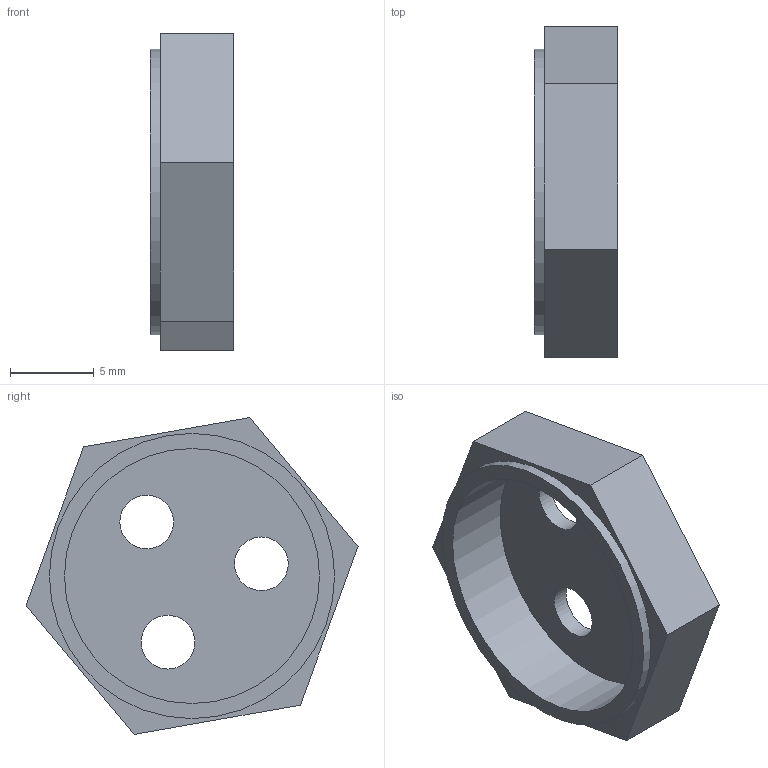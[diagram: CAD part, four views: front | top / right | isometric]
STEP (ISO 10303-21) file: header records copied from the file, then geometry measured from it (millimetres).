
FILE_DESCRIPTION(/* description */ (''),/* implementation_level */ '2;1');
FILE_NAME(/* name */ '4-20-2 Nut spacer.step',/* time_stamp */ '2025-05-10T22:18:07+02:00',/* author */ (''),/* organization */ (''),/* preprocessor_version */ 'ST-DEVELOPER v20.1',/* originating_system */ 'Autodesk Translation Framework v14.4.0.0',/* authorisation */ '');
FILE_SCHEMA (('AUTOMOTIVE_DESIGN { 1 0 10303 214 3 1 1 }'));
Length unit declared in the file: millimetre
Products named in the file (1): Nut spacer
Bounding box: 5 x 19.79 x 18.88 mm (x, y, z)
Volume: 539.9 mm3; surface area: 994.6 mm2
Topology: 1 solids, 1 shells, 15 faces, 33 edges, 22 vertices
Faces by surface type: plane 10, cylinder 5
Full cylindrical faces by diameter (mm): 3.2 x3, 15.2 x1, 17 x1
Entity records: 469 total; most frequent: DIRECTION 75, CARTESIAN_POINT 71, ORIENTED_EDGE 66, EDGE_CURVE 33, AXIS2_PLACEMENT_3D 26, EDGE_LOOP 23, LINE 23, VECTOR 23
